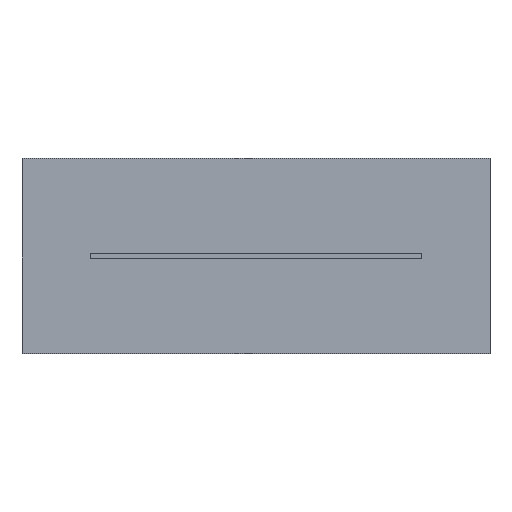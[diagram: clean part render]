
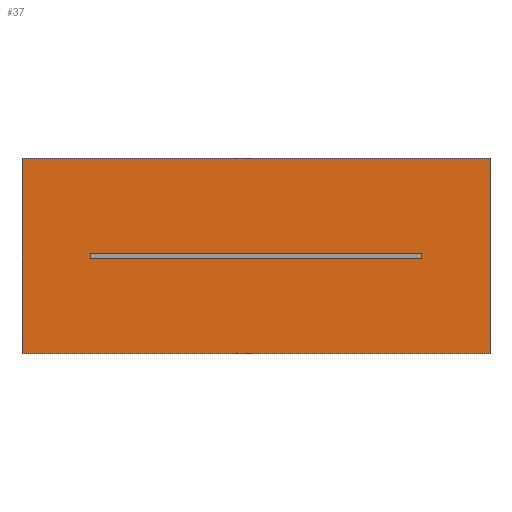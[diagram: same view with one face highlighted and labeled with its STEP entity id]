
A CAD part, top view. The second image highlights one B-rep face of the part: STEP entity #37.
In plain terms, the highlighted planar face has unit normal (0, 0, 1).
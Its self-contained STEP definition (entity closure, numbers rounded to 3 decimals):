
#12=FACE_BOUND($,#119,.T.);
#37=ADVANCED_FACE($,(#77,#12),#467,.T.);
#77=FACE_OUTER_BOUND($,#118,.T.);
#118=EDGE_LOOP($,(#196,#197,#198,#199));
#119=EDGE_LOOP($,(#200,#201,#202,#203));
#196=ORIENTED_EDGE($,*,*,#347,.F.);
#197=ORIENTED_EDGE($,*,*,#346,.F.);
#198=ORIENTED_EDGE($,*,*,#345,.F.);
#199=ORIENTED_EDGE($,*,*,#344,.F.);
#200=ORIENTED_EDGE($,*,*,#335,.F.);
#201=ORIENTED_EDGE($,*,*,#339,.F.);
#202=ORIENTED_EDGE($,*,*,#331,.T.);
#203=ORIENTED_EDGE($,*,*,#337,.T.);
#331=EDGE_CURVE($,#411,#408,#511,.T.);
#335=EDGE_CURVE($,#415,#412,#515,.T.);
#337=EDGE_CURVE($,#408,#412,#517,.T.);
#339=EDGE_CURVE($,#411,#415,#519,.T.);
#344=EDGE_CURVE($,#420,#421,#524,.T.);
#345=EDGE_CURVE($,#421,#422,#525,.T.);
#346=EDGE_CURVE($,#422,#423,#526,.T.);
#347=EDGE_CURVE($,#423,#420,#527,.T.);
#408=VERTEX_POINT($,#850);
#411=VERTEX_POINT($,#853);
#412=VERTEX_POINT($,#854);
#415=VERTEX_POINT($,#857);
#420=VERTEX_POINT($,#862);
#421=VERTEX_POINT($,#863);
#422=VERTEX_POINT($,#864);
#423=VERTEX_POINT($,#865);
#467=PLANE($,#679);
#511=B_SPLINE_CURVE_WITH_KNOTS($,1,(#798,#799),.UNSPECIFIED.,.F.,.F.,(2,
2),(-1700.,0.),.UNSPECIFIED.);
#515=B_SPLINE_CURVE_WITH_KNOTS($,1,(#806,#807),.UNSPECIFIED.,.F.,.F.,(2,
2),(-1700.,0.),.UNSPECIFIED.);
#517=B_SPLINE_CURVE_WITH_KNOTS($,1,(#810,#811),.UNSPECIFIED.,.F.,.F.,(2,
2),(-30.,0.),.UNSPECIFIED.);
#519=B_SPLINE_CURVE_WITH_KNOTS($,1,(#814,#815),.UNSPECIFIED.,.F.,.F.,(2,
2),(-30.,0.),.UNSPECIFIED.);
#524=B_SPLINE_CURVE_WITH_KNOTS($,1,(#824,#825),.UNSPECIFIED.,.F.,.F.,(2,
2),(0.,1000.),.UNSPECIFIED.);
#525=B_SPLINE_CURVE_WITH_KNOTS($,1,(#826,#827),.UNSPECIFIED.,.F.,.F.,(2,
2),(0.,2400.),.UNSPECIFIED.);
#526=B_SPLINE_CURVE_WITH_KNOTS($,1,(#828,#829),.UNSPECIFIED.,.F.,.F.,(2,
2),(0.,1000.),.UNSPECIFIED.);
#527=B_SPLINE_CURVE_WITH_KNOTS($,1,(#830,#831),.UNSPECIFIED.,.F.,.F.,(2,
2),(0.,2400.),.UNSPECIFIED.);
#679=AXIS2_PLACEMENT_3D($,#845,#722,$);
#722=DIRECTION($,(0.,0.,1.));
#798=CARTESIAN_POINT($,(1908.222,551.045,40.));
#799=CARTESIAN_POINT($,(208.222,551.045,40.));
#806=CARTESIAN_POINT($,(1908.222,581.045,40.));
#807=CARTESIAN_POINT($,(208.222,581.045,40.));
#810=CARTESIAN_POINT($,(208.222,551.045,40.));
#811=CARTESIAN_POINT($,(208.222,581.045,40.));
#814=CARTESIAN_POINT($,(1908.222,551.045,40.));
#815=CARTESIAN_POINT($,(1908.222,581.045,40.));
#824=CARTESIAN_POINT($,(-141.778,66.045,40.));
#825=CARTESIAN_POINT($,(-141.778,1066.045,40.));
#826=CARTESIAN_POINT($,(-141.778,1066.045,40.));
#827=CARTESIAN_POINT($,(2258.222,1066.045,40.));
#828=CARTESIAN_POINT($,(2258.222,1066.045,40.));
#829=CARTESIAN_POINT($,(2258.222,66.045,40.));
#830=CARTESIAN_POINT($,(2258.222,66.045,40.));
#831=CARTESIAN_POINT($,(-141.778,66.045,40.));
#845=CARTESIAN_POINT($,(-141.778,66.045,40.));
#850=CARTESIAN_POINT($,(208.222,551.045,40.));
#853=CARTESIAN_POINT($,(1908.222,551.045,40.));
#854=CARTESIAN_POINT($,(208.222,581.045,40.));
#857=CARTESIAN_POINT($,(1908.222,581.045,40.));
#862=CARTESIAN_POINT($,(-141.778,66.045,40.));
#863=CARTESIAN_POINT($,(-141.778,1066.045,40.));
#864=CARTESIAN_POINT($,(2258.222,1066.045,40.));
#865=CARTESIAN_POINT($,(2258.222,66.045,40.));
